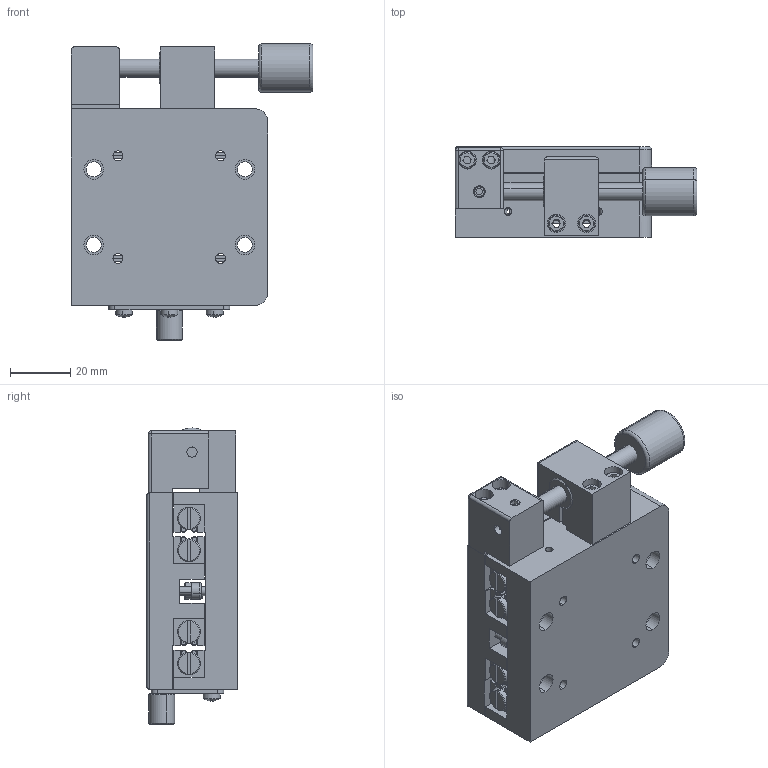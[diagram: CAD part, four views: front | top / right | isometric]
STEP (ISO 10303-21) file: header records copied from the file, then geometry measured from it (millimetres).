
FILE_DESCRIPTION (( 'STEP AP203' ), '1' );
FILE_NAME ('7STM01125平移台（反手）.STEP', '2019-09-17T07:19:06', ( '' ), ( '' ), 'SwSTEP 2.0', 'SolidWorks 2014', '' );
FILE_SCHEMA (( 'CONFIG_CONTROL_DESIGN' ));
Length unit declared in the file: millimetre
Products named in the file (1): 7STM01125平移台（反手）
Bounding box: 80.03 x 30 x 98 mm (x, y, z)
Surface area: 49441 mm2 (no closed solid volume)
Topology: 0 solids, 46 shells, 543 faces, 1555 edges, 1045 vertices
Faces by surface type: plane 241, cylinder 200, cone 68, torus 26, sphere 8
Entity records: 18362 total; most frequent: CARTESIAN_POINT 3664, DIRECTION 3251, ORIENTED_EDGE 2761, EDGE_CURVE 1547, AXIS2_PLACEMENT_3D 1250, VERTEX_POINT 1045, VECTOR 751, LINE 751
